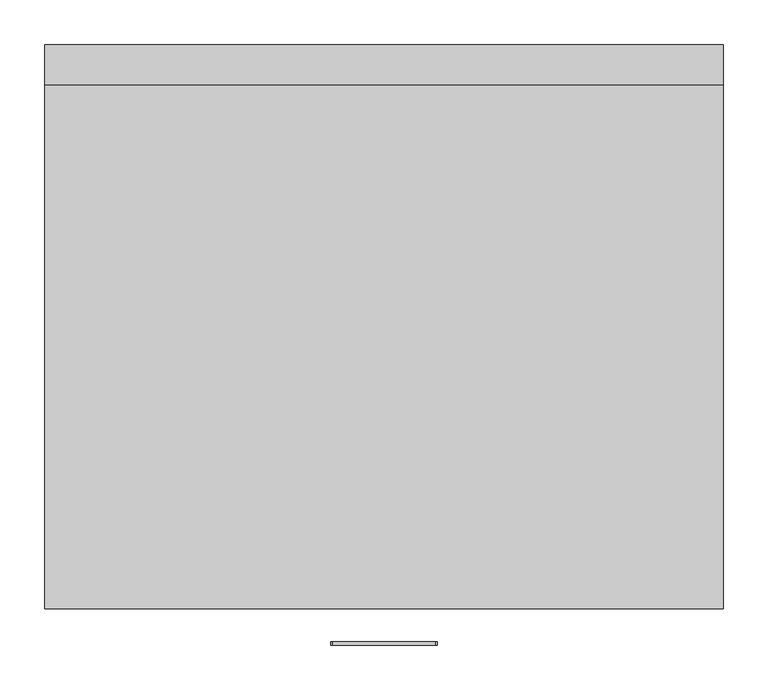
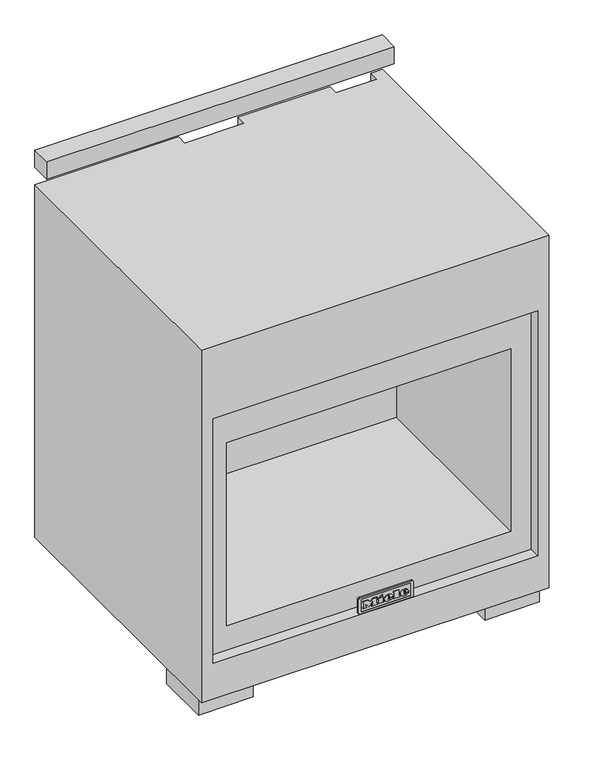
"""IFC4 building model written with IfcOpenShell, lengths in millimetres: proxy geometry, 10902360_USA_HR1924-2G_EDST-CLST : 25192471_USA_10902360_HR1924-2G_EDST-CLST."""

from ifc_helpers import new_model, si_unit, point, frame, frame_2d, origin, origin_with_axes, place, context, project, spatial, polyline, circle_curve, ellipse_curve, trimmed, segment, composite_curve, outline, extrude, faceted_brep, source, transform, mapped, element, save
from ifc_brep_helpers import plane_surface, cylinder_surface, revolved_surface, extruded_surface, advanced_brep


def specialty_equipment_ef82b3eb(model_context):
    return source(origin(), model_context, "Body", "SolidModel", [
        extrude(outline(composite_curve([segment(polyline([(-313.4581842, -37.6489066), (-312.202206, -37.8031213), (-313.1593436, -39.5606642)]), True, "CONTINUOUS"), segment(trimmed(circle_curve(frame_2d((-315.3057471, -36.6354063)), 3.6282478), [point((-313.1593436, -39.5606642))], [point((-316.8962663, -39.8964538))], False, "CARTESIAN"), True, "CONTINUOUS"), segment(trimmed(circle_curve(frame_2d((-315.7731504, -37.593725)), 2.5620205), [point((-316.8962663, -39.8964538))], [point((-318.32893, -37.7724425))], False, "CARTESIAN"), True, "CONTINUOUS"), segment(trimmed(circle_curve(frame_2d((-316.617737, -37.6527843)), 1.7153715), [point((-318.32893, -37.7724425))], [point((-317.147816, -36.021369))], False, "CARTESIAN"), True, "CONTINUOUS"), segment(polyline([(-317.147816, -36.021369), (-315.3069947, -35.4232499), (-313.987673, -33.9770867)]), True, "CONTINUOUS"), segment(trimmed(circle_curve(frame_2d((-315.1408399, -36.351197)), 2.6393548), [point((-313.987673, -33.9770867))], [point((-316.2940069, -33.9770867))], True, "CARTESIAN"), True, "CONTINUOUS"), segment(polyline([(-316.2940069, -33.9770867), (-316.7553884, -34.6611129), (-318.0084996, -34.5072502), (-317.5756304, -33.3795875)]), True, "CONTINUOUS"), segment(trimmed(circle_curve(frame_2d((-314.9527143, -36.6576461)), 4.1982564), [point((-317.5756304, -33.3795875))], [point((-315.0505395, -32.4605295))], False, "CARTESIAN"), True, "CONTINUOUS"), segment(trimmed(circle_curve(frame_2d((-314.9805679, -35.4626064)), 3.0028922), [point((-315.0505395, -32.4605295))], [point((-312.5718203, -33.6694816))], False, "CARTESIAN"), True, "CONTINUOUS"), segment(trimmed(circle_curve(frame_2d((-314.4380028, -34.5301363)), 2.0550823), [point((-312.5718203, -33.6694816))], [point((-313.4341096, -36.323335))], False, "CARTESIAN"), True, "CONTINUOUS"), segment(polyline([(-313.4341096, -36.323335), (-315.3494535, -36.9828408), (-317.0597255, -37.9076387), (-316.6768706, -38.6156702)]), True, "CONTINUOUS"), segment(trimmed(circle_curve(frame_2d((-315.3695779, -35.6018954)), 3.2850956), [point((-316.6768706, -38.6156702))], [point((-314.0622852, -38.6156702))], True, "CARTESIAN"), True, "CONTINUOUS"), segment(polyline([(-314.0622852, -38.6156702), (-313.4581842, -37.6489066)]), True, "CONTINUOUS")], self_intersect=False)), frame((0.0, 0.0, 753.0), z_axis=(0.0, 0.0, 1.0), x_axis=(1.0, 0.0, 0.0)), (0.0, 0.0, 1.0), 1.0),
        extrude(outline(composite_curve([segment(polyline([(-303.0941465, -34.8216074), (-299.0193946, -34.8216074), (-299.0193946, -36.0727848), (-301.8300756, -36.0727848), (-301.8300756, -37.8953779), (-300.5547934, -38.5734575), (-298.8554891, -38.8730907)]), True, "CONTINUOUS"), segment(trimmed(circle_curve(frame_2d((-298.7763582, -35.1835188)), 3.6904203), [point((-298.8554891, -38.8730907))], [point((-295.0917956, -34.975672))], True, "CARTESIAN"), True, "CONTINUOUS"), segment(trimmed(circle_curve(frame_2d((-299.2742118, -35.2116028)), 4.1890654), [point((-295.0917956, -34.975672))], [point((-298.8924604, -31.0399683))], True, "CARTESIAN"), True, "CONTINUOUS"), segment(trimmed(circle_curve(frame_2d((-299.1434541, -33.7827322)), 2.7542243), [point((-298.8924604, -31.0399683))], [point((-301.2311401, -31.9862582))], True, "CARTESIAN"), True, "CONTINUOUS"), segment(polyline([(-301.2311401, -31.9862582), (-301.7913432, -33.1348449), (-302.9545959, -32.808521), (-302.2222817, -31.1459412)]), True, "CONTINUOUS"), segment(trimmed(circle_curve(frame_2d((-299.0056573, -34.3038983)), 4.5077007), [point((-302.2222817, -31.1459412))], [point((-298.8478593, -29.7989604))], False, "CARTESIAN"), True, "CONTINUOUS"), segment(trimmed(circle_curve(frame_2d((-299.0297107, -35.0029797)), 5.2071956), [point((-298.8478593, -29.7989604))], [point((-293.8225151, -35.0029797))], False, "CARTESIAN"), True, "CONTINUOUS"), segment(trimmed(circle_curve(frame_2d((-299.0187023, -34.9634409)), 5.1963376), [point((-293.8225151, -35.0029797))], [point((-299.0187023, -40.1597785))], False, "CARTESIAN"), True, "CONTINUOUS"), segment(polyline([(-299.0187023, -40.1597785), (-301.0821579, -39.7823822), (-303.0941465, -38.5734575), (-303.0941465, -34.8216074)]), True, "CONTINUOUS")], self_intersect=False)), frame((0.0, 0.0, 753.0), z_axis=(0.0, 0.0, 1.0), x_axis=(1.0, 0.0, 0.0)), (0.0, 0.0, 1.0), 1.0),
        extrude(outline(polyline([(-335.0, -65.0), (-270.0, -65.0), (-270.0, -73.0), (-335.0, -73.0), (-335.0, -65.0)])), frame((0.0, 0.0, 670.0), z_axis=(0.0, 0.0, 1.0), x_axis=(1.0, 0.0, 0.0)), (0.0, 0.0, 1.0), 114.0),
        faceted_brep([(356.0, -608.0, 695.0), (-356.0, -608.0, 695.0), (-356.0, -608.0, 128.0), (356.0, -608.0, 128.0), (312.0, -608.0, 608.0), (312.0, -608.0, 185.0), (-312.0, -608.0, 185.0), (-312.0, -608.0, 608.0), (356.0, -633.0, 128.0), (356.0, -633.0, 695.0), (-356.0, -633.0, 128.0), (-356.0, -633.0, 695.0), (-381.0, 0.0, 862.0), (-381.0, -633.0, 862.0), (381.0, -633.0, 862.0), (381.0, 0.0, 862.0), (356.0, 0.0, 862.0), (356.0, -23.0, 862.0), (266.0, -23.0, 862.0), (266.0, 0.0, 862.0), (65.0, 0.0, 862.0), (65.0, -23.0, 862.0), (-66.0, -23.0, 862.0), (-66.0, 0.0, 862.0), (381.0, 0.0, 45.0), (381.0, -633.0, 45.0), (-381.0, -633.0, 45.0), (-381.0, 0.0, 45.0), (-356.0, 0.0, 45.0), (-356.0, -75.0, 45.0), (356.0, -75.0, 45.0), (356.0, 0.0, 45.0), (266.0, 0.0, 132.0), (65.0, 0.0, 132.0), (-66.0, 0.0, 132.0), (-270.0, 0.0, 132.0), (-270.0, 0.0, 670.0), (-186.0, 0.0, 670.0), (-186.0, 0.0, 784.0), (-335.0, 0.0, 784.0), (-335.0, 0.0, 132.0), (-356.0, 0.0, 132.0), (312.0, -173.0, 608.0), (-312.0, -173.0, 608.0), (-312.0, -173.0, 185.0), (312.0, -173.0, 185.0), (-356.0, -75.0, 132.0), (356.0, -75.0, 132.0), (-335.0, -73.0, 132.0), (-270.0, -73.0, 132.0), (-66.0, -23.0, 132.0), (65.0, -23.0, 132.0), (266.0, -23.0, 132.0), (356.0, -23.0, 132.0), (-335.0, -73.0, 784.0), (-270.0, -73.0, 784.0), (-186.0, -65.0, 784.0), (-270.0, -65.0, 784.0), (-270.0, -65.0, 670.0), (-186.0, -65.0, 670.0)], [[[0, 1, 2, 3], [4, 5, 6, 7]], [[0, 3, 8, 9]], [[3, 2, 10, 8]], [[2, 1, 11, 10]], [[1, 0, 9, 11]], [[12, 13, 14, 15, 16, 17, 18, 19, 20, 21, 22, 23]], [[24, 25, 26, 27, 28, 29, 30, 31]], [[20, 19, 32, 33]], [[15, 24, 31, 16]], [[27, 12, 23, 34, 35, 36, 37, 38, 39, 40, 41, 28]], [[13, 12, 27, 26]], [[14, 13, 26, 25], [9, 8, 10, 11]], [[15, 14, 25, 24]], [[42, 43, 44, 45]], [[42, 45, 5, 4]], [[45, 44, 6, 5]], [[44, 43, 7, 6]], [[43, 42, 4, 7]], [[46, 47, 30, 29]], [[47, 46, 41, 40, 48, 49, 35, 34, 50, 51, 33, 32, 52, 53]], [[30, 47, 53, 17, 16, 31]], [[41, 46, 29, 28]], [[54, 55, 49, 48]], [[55, 54, 39, 38, 56, 57]], [[49, 55, 57, 58, 36, 35]], [[39, 54, 48, 40]], [[17, 53, 52, 18]], [[21, 51, 50, 22]], [[51, 21, 20, 33]], [[22, 50, 34, 23]], [[18, 52, 32, 19]], [[57, 56, 59, 58]], [[59, 56, 38, 37]], [[58, 59, 37, 36]]]),
        extrude(outline(polyline([(225.4261097, -45.2846028), (218.1553153, -45.2846028), (218.1553153, -44.0259878), (224.1324687, -44.0259878), (224.1324687, -41.0398896), (218.4699511, -41.0398896), (218.4699511, -39.7868997), (224.1324687, -39.7868997), (224.1324687, -36.484481), (218.0234692, -36.484481), (218.0234692, -35.223126), (225.4261097, -35.223126), (225.4261097, -45.2846028)])), frame((0.0, 0.0, 101.0), z_axis=(0.0, 0.0, 1.0), x_axis=(1.0, 0.0, 0.0)), (0.0, 0.0, 1.0), 1.0),
        extrude(outline(polyline([(216.0939455, -45.2781045), (209.9083542, -45.2781045), (209.9083542, -44.0259878), (214.9083542, -44.0259878), (214.9083542, -35.223126), (216.0939455, -35.223126), (216.0939455, -45.2781045)])), frame((0.0, 0.0, 101.0), z_axis=(0.0, 0.0, 1.0), x_axis=(1.0, 0.0, 0.0)), (0.0, 0.0, 1.0), 1.0),
        extrude(outline(composite_curve([segment(trimmed(circle_curve(frame_2d((218.0, -41.0)), 7.5), [point((218.0, -48.5))], [point((218.0, -33.5))], False, "CARTESIAN"), True, "CONTINUOUS"), segment(trimmed(circle_curve(frame_2d((218.0, -41.0)), 7.5), [point((218.0, -33.5))], [point((218.0, -48.5))], False, "CARTESIAN"), True, "CONTINUOUS")], self_intersect=False)), frame((0.0, 0.0, 102.0), z_axis=(0.0, 0.0, 1.0), x_axis=(1.0, 0.0, 0.0)), (0.0, 0.0, 1.0), 30.0),
        extrude(outline(composite_curve([segment(trimmed(circle_curve(frame_2d((-306.0, -35.0)), 7.5), [point((-313.5, -35.0))], [point((-298.5, -35.0))], False, "CARTESIAN"), True, "CONTINUOUS"), segment(trimmed(circle_curve(frame_2d((-306.0, -35.0)), 7.5), [point((-298.5, -35.0))], [point((-313.5, -35.0))], False, "CARTESIAN"), True, "CONTINUOUS")], self_intersect=False)), frame((0.0, 0.0, 754.0), z_axis=(0.0, 0.0, 1.0), x_axis=(1.0, 0.0, 0.0)), (0.0, 0.0, 1.0), 30.0),
        extrude(outline(polyline([(747.9900117, -230.5376107), (758.0405487, -227.8032463), (758.0405487, -229.1010309), (749.3952189, -231.1941056), (758.0411296, -233.6946617), (758.0411296, -235.5615338), (749.4117226, -238.0845612), (758.0419182, -240.165026), (758.0419182, -241.4626989), (747.9984871, -238.7244126), (747.9984871, -237.3735976), (756.8308623, -234.6286268), (747.9900117, -232.0716905), (747.9900117, -230.5376107)])), frame((0.0, -35.0, 0.0), z_axis=(0.0, 1.0, 0.0), x_axis=(0.0, 0.0, 1.0)), (0.0, 0.0, 1.0), 1.0),
        extrude(outline(polyline([(748.0, -219.4829639), (758.0509015, -219.4829639), (758.0509015, -220.7409127), (753.1386151, -220.7409127), (758.0475587, -225.8904554), (758.0475587, -227.6455728), (753.9164775, -223.3179994), (748.0, -227.8019347), (748.0, -226.2701694), (753.0664133, -222.4304743), (751.4465471, -220.7392234), (748.0, -220.7392234), (748.0, -219.4829639)])), frame((0.0, -35.0, 0.0), z_axis=(0.0, 1.0, 0.0), x_axis=(0.0, 0.0, 1.0)), (0.0, 0.0, 1.0), 1.0),
        extrude(outline(composite_curve([segment(trimmed(circle_curve(frame_2d((753.0, -230.0)), 7.5), [point((753.0, -222.5))], [point((753.0, -237.5))], False, "CARTESIAN"), True, "CONTINUOUS"), segment(trimmed(circle_curve(frame_2d((753.0, -230.0)), 7.5), [point((753.0, -237.5))], [point((753.0, -222.5))], False, "CARTESIAN"), True, "CONTINUOUS")], self_intersect=False)), frame((0.0, -65.0, 0.0), z_axis=(0.0, 1.0, 0.0), x_axis=(0.0, 0.0, 1.0)), (0.0, 0.0, 1.0), 30.0),
        extrude(outline(composite_curve([segment(trimmed(circle_curve(frame_2d((-152.0, 39.6862697)), 39.6862697), [point((-112.6710759, 45.0))], [point((-191.3289241, 45.0))], False, "CARTESIAN"), True, "CONTINUOUS"), segment(polyline([(-191.3289241, 45.0), (-112.6710759, 45.0)]), True, "CONTINUOUS")], self_intersect=False)), frame((-234.0, 0.0, 0.0), z_axis=(1.0, 0.0, 0.0), x_axis=(0.0, 1.0, 0.0)), (0.0, 0.0, 1.0), 28.0),
        extrude(outline(polyline([(-254.0, -489.0), (-254.0, -609.0), (-374.0, -609.0), (-374.0, -489.0), (-254.0, -489.0)])), origin_with_axes(), (0.0, 0.0, 1.0), 45.0),
        extrude(outline(polyline([(374.0, -489.0), (374.0, -609.0), (254.0, -609.0), (254.0, -489.0), (374.0, -489.0)])), origin_with_axes(), (0.0, 0.0, 1.0), 45.0),
        advanced_brep(
        [(39.18, -674.0, 175.9105), (39.18, -674.0, 177.577), (50.2185, -674.0, 177.577), (31.0125, -674.0, 177.577), (35.55, -674.0, 172.0), (49.938, -674.0, 175.9105), (44.955, -674.0, 175.9105), (41.028, -674.0, 174.0625), (39.18, -674.0, 179.689), (39.18, -674.0, 181.4875), (42.0015, -674.0, 181.4875), (42.0015, -674.0, 179.689), (39.18, -673.0, 175.9105), (41.028, -673.0, 174.0625), (44.955, -673.0, 175.9105), (49.938, -673.0, 175.9105), (35.55, -673.0, 172.0), (31.0125, -673.0, 177.577), (50.2185, -673.0, 177.577), (39.18, -673.0, 177.577), (39.18, -673.0, 179.689), (42.0015, -673.0, 179.689), (42.0015, -673.0, 181.4875), (39.18, -673.0, 181.4875)],
        [
            (0, 1),
            (1, 2),
            (2, 3, ellipse_curve(frame((40.6155, -674.0, 177.577), z_axis=(0.0, -1.0, 0.0), x_axis=(-1.0, 0.0, 0.0)), 9.603, 7.9365)),
            (3, 4, circle_curve(frame((37.39809, -674.0, 178.138), z_axis=(0.0, -1.0, 0.0), x_axis=(0.0, 0.0, -1.0)), 6.4101857)),
            (4, 5, circle_curve(frame((40.4232618, -674.0, 182.494), z_axis=(0.0, -1.0, 0.0), x_axis=(0.0, 0.0, -1.0)), 11.5703378)),
            (5, 6),
            (6, 7, circle_curve(frame((41.8345588, -674.0, 177.445), z_axis=(0.0, 1.0, 0.0), x_axis=(0.0, 0.0, -1.0)), 3.4773328)),
            (7, 0, circle_curve(frame((41.028, -674.0, 175.9105), z_axis=(0.0, 1.0, 0.0), x_axis=(0.0, 0.0, -1.0)), 1.848)),
            (8, 9),
            (9, 10, circle_curve(frame((40.59075, -674.0, 181.4875), z_axis=(0.0, 1.0, 0.0), x_axis=(0.0, 0.0, -1.0)), 1.41075)),
            (10, 11),
            (11, 8),
            (12, 13, circle_curve(frame((41.028, -673.0, 175.9105), z_axis=(0.0, -1.0, 0.0), x_axis=(0.0, 0.0, -1.0)), 1.848)),
            (13, 14, circle_curve(frame((41.8345588, -673.0, 177.445), z_axis=(0.0, -1.0, 0.0), x_axis=(0.0, 0.0, -1.0)), 3.4773328)),
            (14, 15),
            (15, 16, circle_curve(frame((40.4232618, -673.0, 182.494), z_axis=(0.0, 1.0, 0.0), x_axis=(0.0, 0.0, -1.0)), 11.5703378)),
            (16, 17, circle_curve(frame((37.39809, -673.0, 178.138), z_axis=(0.0, 1.0, 0.0), x_axis=(0.0, 0.0, -1.0)), 6.4101857)),
            (17, 18, ellipse_curve(frame((40.6155, -673.0, 177.577), z_axis=(0.0, 1.0, 0.0), x_axis=(-1.0, 0.0, 0.0)), 9.603, 7.9365)),
            (18, 19),
            (19, 12),
            (20, 21),
            (21, 22),
            (22, 23, circle_curve(frame((40.59075, -673.0, 181.4875), z_axis=(0.0, -1.0, 0.0), x_axis=(0.0, 0.0, -1.0)), 1.41075)),
            (23, 20),
            (0, 12),
            (19, 1),
            (18, 2),
            (5, 15),
            (14, 6),
            (17, 3),
            (13, 7),
            (16, 4),
            (8, 20),
            (23, 9),
            (22, 10),
            (21, 11),
        ],
        [
            plane_surface(frame((39.18, -674.0, 177.577), z_axis=(0.0, -1.0, 0.0), x_axis=(0.0, 0.0, 1.0))),
            plane_surface(frame((39.18, -673.0, 177.577), z_axis=(0.0, 1.0, 0.0), x_axis=(0.0, 0.0, -1.0))),
            plane_surface(frame((39.18, -674.0, 175.9105), z_axis=(1.0, 0.0, 0.0), x_axis=(0.0, 1.0, 0.0))),
            plane_surface(frame((39.18, -674.0, 177.577), z_axis=(0.0, 0.0, -1.0), x_axis=(0.0, 1.0, 0.0))),
            plane_surface(frame((49.938, -674.0, 175.9105), z_axis=(0.0, 0.0, 1.0), x_axis=(0.0, 1.0, 0.0))),
            extruded_surface(trimmed(ellipse_curve(frame((40.6155, -672.0, 177.577), z_axis=(0.0, -1.0, 0.0), x_axis=(-1.0, 0.0, 0.0)), 9.603, 7.9365), [point((50.2185, -672.0, 177.577))], [point((31.0125, -672.0, 177.577))], True, "CARTESIAN"), (0.0, -1.0, 0.0), 1.0),
            revolved_surface(polyline([(41.8345588, -673.0, 173.9676672), (41.8345588, -674.0, 173.9676672)]), (41.8345588, -673.0, 177.445), (0.0, 1.0, 0.0)),
            revolved_surface(polyline([(41.028, -673.0, 174.0625), (41.028, -674.0, 174.0625)]), (41.028, -673.0, 175.9105), (0.0, 1.0, 0.0)),
            cylinder_surface(frame((37.39809, -673.0, 178.138), z_axis=(0.0, -1.0, 0.0), x_axis=(0.0, 0.0, -1.0)), 6.4101857),
            cylinder_surface(frame((40.4232618, -673.0, 182.494), z_axis=(0.0, -1.0, 0.0), x_axis=(0.0, 0.0, -1.0)), 11.5703378),
            plane_surface(frame((39.18, -674.0, 179.689), z_axis=(1.0, 0.0, 0.0), x_axis=(0.0, 1.0, 0.0))),
            revolved_surface(polyline([(40.59075, -673.0, 180.07675), (40.59075, -674.0, 180.07675)]), (40.59075, -673.0, 181.4875), (0.0, 1.0, 0.0)),
            plane_surface(frame((42.0015, -674.0, 181.4875), z_axis=(-1.0, 0.0, 0.0), x_axis=(0.0, 1.0, 0.0))),
            plane_surface(frame((42.0015, -674.0, 179.689), z_axis=(0.0, 0.0, 1.0), x_axis=(0.0, 1.0, 0.0))),
        ],
        [
            (0, [[1, 2, 3, 4, 5, 6, 7, 8], [9, 10, 11, 12]]),
            (1, [[13, 14, 15, 16, 17, 18, 19, 20], [21, 22, 23, 24]]),
            (2, [[-1, 25, -20, 26]]),
            (3, [[-2, -26, -19, 27]]),
            (4, [[-6, 28, -15, 29]]),
            (5, [[-3, -27, -18, 30]]),
            (6, [[-7, -29, -14, 31]]),
            (7, [[-8, -31, -13, -25]]),
            (8, [[-4, -30, -17, 32]]),
            (9, [[-5, -32, -16, -28]]),
            (10, [[-9, 33, -24, 34]]),
            (11, [[-10, -34, -23, 35]]),
            (12, [[-11, -35, -22, 36]]),
            (13, [[-12, -36, -21, -33]]),
        ],
    ),
        advanced_brep(
        [(4.7445, -674.0, 175.9105), (4.7445, -674.0, 177.577), (15.783, -674.0, 177.577), (-3.423, -674.0, 177.577), (1.1145, -674.0, 172.0), (15.5025, -674.0, 175.9105), (10.5195, -674.0, 175.9105), (6.5925, -674.0, 174.0625), (4.7445, -674.0, 179.689), (4.7445, -674.0, 181.4875), (7.566, -674.0, 181.4875), (7.566, -674.0, 179.689), (4.7445, -673.0, 175.9105), (6.5925, -673.0, 174.0625), (10.5195, -673.0, 175.9105), (15.5025, -673.0, 175.9105), (1.1145, -673.0, 172.0), (-3.423, -673.0, 177.577), (15.783, -673.0, 177.577), (4.7445, -673.0, 177.577), (4.7445, -673.0, 179.689), (7.566, -673.0, 179.689), (7.566, -673.0, 181.4875), (4.7445, -673.0, 181.4875)],
        [
            (0, 1),
            (1, 2),
            (2, 3, ellipse_curve(frame((6.18, -674.0, 177.577), z_axis=(0.0, -1.0, 0.0), x_axis=(-1.0, 0.0, 0.0)), 9.603, 7.9365)),
            (3, 4, circle_curve(frame((2.96259, -674.0, 178.138), z_axis=(0.0, -1.0, 0.0), x_axis=(0.0, 0.0, -1.0)), 6.4101857)),
            (4, 5, circle_curve(frame((5.9877618, -674.0, 182.494), z_axis=(0.0, -1.0, 0.0), x_axis=(0.0, 0.0, -1.0)), 11.5703378)),
            (5, 6),
            (6, 7, circle_curve(frame((7.3990588, -674.0, 177.445), z_axis=(0.0, 1.0, 0.0), x_axis=(0.0, 0.0, -1.0)), 3.4773328)),
            (7, 0, circle_curve(frame((6.5925, -674.0, 175.9105), z_axis=(0.0, 1.0, 0.0), x_axis=(0.0, 0.0, -1.0)), 1.848)),
            (8, 9),
            (9, 10, circle_curve(frame((6.15525, -674.0, 181.4875), z_axis=(0.0, 1.0, 0.0), x_axis=(0.0, 0.0, -1.0)), 1.41075)),
            (10, 11),
            (11, 8),
            (12, 13, circle_curve(frame((6.5925, -673.0, 175.9105), z_axis=(0.0, -1.0, 0.0), x_axis=(0.0, 0.0, -1.0)), 1.848)),
            (13, 14, circle_curve(frame((7.3990588, -673.0, 177.445), z_axis=(0.0, -1.0, 0.0), x_axis=(0.0, 0.0, -1.0)), 3.4773328)),
            (14, 15),
            (15, 16, circle_curve(frame((5.9877618, -673.0, 182.494), z_axis=(0.0, 1.0, 0.0), x_axis=(0.0, 0.0, -1.0)), 11.5703378)),
            (16, 17, circle_curve(frame((2.96259, -673.0, 178.138), z_axis=(0.0, 1.0, 0.0), x_axis=(0.0, 0.0, -1.0)), 6.4101857)),
            (17, 18, ellipse_curve(frame((6.18, -673.0, 177.577), z_axis=(0.0, 1.0, 0.0), x_axis=(-1.0, 0.0, 0.0)), 9.603, 7.9365)),
            (18, 19),
            (19, 12),
            (20, 21),
            (21, 22),
            (22, 23, circle_curve(frame((6.15525, -673.0, 181.4875), z_axis=(0.0, -1.0, 0.0), x_axis=(0.0, 0.0, -1.0)), 1.41075)),
            (23, 20),
            (0, 12),
            (19, 1),
            (18, 2),
            (5, 15),
            (14, 6),
            (17, 3),
            (13, 7),
            (16, 4),
            (8, 20),
            (23, 9),
            (22, 10),
            (21, 11),
        ],
        [
            plane_surface(frame((4.7445, -674.0, 177.577), z_axis=(0.0, -1.0, 0.0), x_axis=(0.0, 0.0, 1.0))),
            plane_surface(frame((4.7445, -673.0, 177.577), z_axis=(0.0, 1.0, 0.0), x_axis=(0.0, 0.0, -1.0))),
            plane_surface(frame((4.7445, -674.0, 175.9105), z_axis=(1.0, 0.0, 0.0), x_axis=(0.0, 1.0, 0.0))),
            plane_surface(frame((4.7445, -674.0, 177.577), z_axis=(0.0, 0.0, -1.0), x_axis=(0.0, 1.0, 0.0))),
            plane_surface(frame((15.5025, -674.0, 175.9105), z_axis=(0.0, 0.0, 1.0), x_axis=(0.0, 1.0, 0.0))),
            extruded_surface(trimmed(ellipse_curve(frame((6.18, -672.0, 177.577), z_axis=(0.0, -1.0, 0.0), x_axis=(-1.0, 0.0, 0.0)), 9.603, 7.9365), [point((15.783, -672.0, 177.577))], [point((-3.423, -672.0, 177.577))], True, "CARTESIAN"), (0.0, -1.0, 0.0), 1.0),
            revolved_surface(polyline([(7.3990588, -673.0, 173.9676672), (7.3990588, -674.0, 173.9676672)]), (7.3990588, -673.0, 177.445), (0.0, 1.0, 0.0)),
            revolved_surface(polyline([(6.5925, -673.0, 174.0625), (6.5925, -674.0, 174.0625)]), (6.5925, -673.0, 175.9105), (0.0, 1.0, 0.0)),
            cylinder_surface(frame((2.96259, -673.0, 178.138), z_axis=(0.0, -1.0, 0.0), x_axis=(0.0, 0.0, -1.0)), 6.4101857),
            cylinder_surface(frame((5.9877618, -673.0, 182.494), z_axis=(0.0, -1.0, 0.0), x_axis=(0.0, 0.0, -1.0)), 11.5703378),
            plane_surface(frame((4.7445, -674.0, 179.689), z_axis=(1.0, 0.0, 0.0), x_axis=(0.0, 1.0, 0.0))),
            revolved_surface(polyline([(6.15525, -673.0, 180.07675), (6.15525, -674.0, 180.07675)]), (6.15525, -673.0, 181.4875), (0.0, 1.0, 0.0)),
            plane_surface(frame((7.566, -674.0, 181.4875), z_axis=(-1.0, 0.0, 0.0), x_axis=(0.0, 1.0, 0.0))),
            plane_surface(frame((7.566, -674.0, 179.689), z_axis=(0.0, 0.0, 1.0), x_axis=(0.0, 1.0, 0.0))),
        ],
        [
            (0, [[1, 2, 3, 4, 5, 6, 7, 8], [9, 10, 11, 12]]),
            (1, [[13, 14, 15, 16, 17, 18, 19, 20], [21, 22, 23, 24]]),
            (2, [[-1, 25, -20, 26]]),
            (3, [[-2, -26, -19, 27]]),
            (4, [[-6, 28, -15, 29]]),
            (5, [[-3, -27, -18, 30]]),
            (6, [[-7, -29, -14, 31]]),
            (7, [[-8, -31, -13, -25]]),
            (8, [[-4, -30, -17, 32]]),
            (9, [[-5, -32, -16, -28]]),
            (10, [[-9, 33, -24, 34]]),
            (11, [[-10, -34, -23, 35]]),
            (12, [[-11, -35, -22, 36]]),
            (13, [[-12, -36, -21, -33]]),
        ],
    ),
        extrude(outline(polyline([(187.5265, -13.29), (184.8535, -12.036), (187.4605, -6.4425), (190.1335, -7.68), (187.5265, -13.29)])), frame((0.0, -674.0, 0.0), z_axis=(0.0, 1.0, 0.0), x_axis=(0.0, 0.0, 1.0)), (0.0, 0.0, 1.0), 1.0),
        extrude(outline(polyline([(184.4905, -17.3655), (181.537, -17.3655), (181.537, -15.402), (174.772, -15.402), (174.772, -17.3655), (172.0, -17.3655), (172.0, -4.347), (174.772, -4.347), (174.772, -6.261), (184.4905, -6.261), (184.4905, -17.3655)])), frame((0.0, -674.0, 0.0), z_axis=(0.0, 1.0, 0.0), x_axis=(0.0, 0.0, 1.0)), (0.0, 0.0, 1.0), 1.0),
        extrude(outline(polyline([(185.8105, 16.707), (185.8105, 18.687), (174.772, 18.687), (174.772, 16.707), (172.0, 16.707), (172.0, 30.0885), (174.772, 30.0885), (174.772, 28.059), (188.5, 28.059), (188.5, 16.707), (185.8105, 16.707)])), frame((0.0, -674.0, 0.0), z_axis=(0.0, 1.0, 0.0), x_axis=(0.0, 0.0, 1.0)), (0.0, 0.0, 1.0), 1.0),
        extrude(outline(polyline([(185.8105, -50.25), (185.8105, -48.2535), (174.772, -48.2535), (174.772, -50.25), (172.0, -50.25), (172.0, -42.99), (174.772, -42.99), (174.772, -44.97), (181.7366247, -44.97), (172.0, -37.5945), (182.1277223, -30.186), (174.772, -30.186), (174.772, -32.2155), (172.0, -32.2155), (172.0, -19.0485), (174.772, -19.0485), (174.772, -21.144), (185.8105, -21.144), (185.8105, -19.0485), (188.5, -19.0485), (188.5, -29.097), (182.3125, -33.915), (188.5, -38.7495), (188.5, -50.25), (185.8105, -50.25)])), frame((0.0, -674.0, 0.0), z_axis=(0.0, 1.0, 0.0), x_axis=(0.0, 0.0, 1.0)), (0.0, 0.0, 1.0), 1.0),
        advanced_brep(
        [(57.5, -674.0, 199.0), (-57.5, -674.0, 199.0), (-60.0, -674.0, 196.5), (-60.0, -674.0, 164.5), (-57.5, -674.0, 162.0), (57.5, -674.0, 162.0), (60.0, -674.0, 164.5), (60.0, -674.0, 196.5), (-52.5, -674.0, 195.0), (52.5, -674.0, 195.0), (54.0, -674.0, 193.5), (54.0, -674.0, 167.5), (52.5, -674.0, 166.0), (-52.5, -674.0, 166.0), (-54.0, -674.0, 167.5), (-54.0, -674.0, 193.5), (57.5, -670.0, 199.0), (60.0, -670.0, 196.5), (60.0, -670.0, 164.5), (57.5, -670.0, 162.0), (-57.5, -670.0, 162.0), (-60.0, -670.0, 164.5), (-60.0, -670.0, 196.5), (-57.5, -670.0, 199.0), (52.5, -673.0, 195.0), (-52.5, -673.0, 195.0), (-54.0, -673.0, 193.5), (-54.0, -673.0, 167.5), (-52.5, -673.0, 166.0), (52.5, -673.0, 166.0), (54.0, -673.0, 167.5), (54.0, -673.0, 193.5)],
        [
            (0, 1),
            (1, 2, circle_curve(frame((-57.5, -674.0, 196.5), z_axis=(0.0, -1.0, 0.0), x_axis=(-1.0, 0.0, 0.0)), 2.5)),
            (2, 3),
            (3, 4, circle_curve(frame((-57.5, -674.0, 164.5), z_axis=(0.0, -1.0, 0.0), x_axis=(-1.0, 0.0, 0.0)), 2.5)),
            (4, 5),
            (5, 6, circle_curve(frame((57.5, -674.0, 164.5), z_axis=(0.0, -1.0, 0.0), x_axis=(-1.0, 0.0, 0.0)), 2.5)),
            (6, 7),
            (7, 0, circle_curve(frame((57.5, -674.0, 196.5), z_axis=(0.0, -1.0, 0.0), x_axis=(-1.0, 0.0, 0.0)), 2.5)),
            (8, 9),
            (9, 10, circle_curve(frame((52.5, -674.0, 193.5), z_axis=(0.0, 1.0, 0.0), x_axis=(1.0, 0.0, 0.0)), 1.5)),
            (10, 11),
            (11, 12, circle_curve(frame((52.5, -674.0, 167.5), z_axis=(0.0, 1.0, 0.0), x_axis=(1.0, 0.0, 0.0)), 1.5)),
            (12, 13),
            (13, 14, circle_curve(frame((-52.5, -674.0, 167.5), z_axis=(0.0, 1.0, 0.0), x_axis=(1.0, 0.0, 0.0)), 1.5)),
            (14, 15),
            (15, 8, circle_curve(frame((-52.5, -674.0, 193.5), z_axis=(0.0, 1.0, 0.0), x_axis=(1.0, 0.0, 0.0)), 1.5)),
            (16, 17, circle_curve(frame((57.5, -670.0, 196.5), z_axis=(0.0, 1.0, 0.0), x_axis=(-1.0, 0.0, 0.0)), 2.5)),
            (17, 18),
            (18, 19, circle_curve(frame((57.5, -670.0, 164.5), z_axis=(0.0, 1.0, 0.0), x_axis=(-1.0, 0.0, 0.0)), 2.5)),
            (19, 20),
            (20, 21, circle_curve(frame((-57.5, -670.0, 164.5), z_axis=(0.0, 1.0, 0.0), x_axis=(-1.0, 0.0, 0.0)), 2.5)),
            (21, 22),
            (22, 23, circle_curve(frame((-57.5, -670.0, 196.5), z_axis=(0.0, 1.0, 0.0), x_axis=(-1.0, 0.0, 0.0)), 2.5)),
            (23, 16),
            (0, 16),
            (23, 1),
            (22, 2),
            (21, 3),
            (20, 4),
            (19, 5),
            (18, 6),
            (17, 7),
            (24, 25),
            (25, 26, circle_curve(frame((-52.5, -673.0, 193.5), z_axis=(0.0, -1.0, 0.0), x_axis=(1.0, 0.0, 0.0)), 1.5)),
            (26, 27),
            (27, 28, circle_curve(frame((-52.5, -673.0, 167.5), z_axis=(0.0, -1.0, 0.0), x_axis=(1.0, 0.0, 0.0)), 1.5)),
            (28, 29),
            (29, 30, circle_curve(frame((52.5, -673.0, 167.5), z_axis=(0.0, -1.0, 0.0), x_axis=(1.0, 0.0, 0.0)), 1.5)),
            (30, 31),
            (31, 24, circle_curve(frame((52.5, -673.0, 193.5), z_axis=(0.0, -1.0, 0.0), x_axis=(1.0, 0.0, 0.0)), 1.5)),
            (24, 9),
            (8, 25),
            (15, 26),
            (14, 27),
            (13, 28),
            (12, 29),
            (11, 30),
            (10, 31),
        ],
        [
            plane_surface(frame((55.0, -674.0, 196.5), z_axis=(0.0, -1.0, 0.0), x_axis=(0.0, 0.0, -1.0))),
            plane_surface(frame((55.0, -670.0, 196.5), z_axis=(0.0, 1.0, 0.0), x_axis=(0.0, 0.0, 1.0))),
            plane_surface(frame((-57.5, -670.0, 199.0), z_axis=(0.0, 0.0, 1.0), x_axis=(0.0, -1.0, 0.0))),
            cylinder_surface(frame((-57.5, -674.0, 196.5), z_axis=(0.0, 1.0, 0.0), x_axis=(-1.0, 0.0, 0.0)), 2.5),
            plane_surface(frame((-60.0, -670.0, 164.5), z_axis=(-1.0, 0.0, 0.0), x_axis=(0.0, -1.0, 0.0))),
            cylinder_surface(frame((-57.5, -674.0, 164.5), z_axis=(0.0, 1.0, 0.0), x_axis=(-1.0, 0.0, 0.0)), 2.5),
            plane_surface(frame((57.5, -670.0, 162.0), z_axis=(0.0, 0.0, -1.0), x_axis=(0.0, -1.0, 0.0))),
            cylinder_surface(frame((57.5, -674.0, 164.5), z_axis=(0.0, 1.0, 0.0), x_axis=(-1.0, 0.0, 0.0)), 2.5),
            plane_surface(frame((60.0, -670.0, 196.5), z_axis=(1.0, 0.0, 0.0), x_axis=(0.0, -1.0, 0.0))),
            cylinder_surface(frame((57.5, -674.0, 196.5), z_axis=(0.0, 1.0, 0.0), x_axis=(-1.0, 0.0, 0.0)), 2.5),
            plane_surface(frame((-52.5, -673.0, 195.0), z_axis=(0.0, -1.0, 0.0), x_axis=(1.0, 0.0, 0.0))),
            plane_surface(frame((52.5, -674.0, 195.0), z_axis=(0.0, 0.0, -1.0), x_axis=(0.0, 1.0, 0.0))),
            revolved_surface(polyline([(-51.0, -674.0, 193.5), (-51.0, -673.0, 193.5)]), (-52.5, -673.0, 193.5), (0.0, -1.0, 0.0)),
            plane_surface(frame((-54.0, -674.0, 193.5), z_axis=(1.0, 0.0, 0.0), x_axis=(0.0, 1.0, 0.0))),
            revolved_surface(polyline([(-51.0, -674.0, 167.5), (-51.0, -673.0, 167.5)]), (-52.5, -673.0, 167.5), (0.0, -1.0, 0.0)),
            plane_surface(frame((-52.5, -674.0, 166.0), z_axis=(0.0, 0.0, 1.0), x_axis=(0.0, 1.0, 0.0))),
            revolved_surface(polyline([(54.0, -674.0, 167.5), (54.0, -673.0, 167.5)]), (52.5, -673.0, 167.5), (0.0, -1.0, 0.0)),
            plane_surface(frame((54.0, -674.0, 167.5), z_axis=(-1.0, 0.0, 0.0), x_axis=(0.0, 1.0, 0.0))),
            revolved_surface(polyline([(54.0, -674.0, 193.5), (54.0, -673.0, 193.5)]), (52.5, -673.0, 193.5), (0.0, -1.0, 0.0)),
        ],
        [
            (0, [[1, 2, 3, 4, 5, 6, 7, 8], [9, 10, 11, 12, 13, 14, 15, 16]]),
            (1, [[17, 18, 19, 20, 21, 22, 23, 24]]),
            (2, [[-1, 25, -24, 26]]),
            (3, [[-2, -26, -23, 27]]),
            (4, [[-3, -27, -22, 28]]),
            (5, [[-4, -28, -21, 29]]),
            (6, [[-5, -29, -20, 30]]),
            (7, [[-6, -30, -19, 31]]),
            (8, [[-7, -31, -18, 32]]),
            (9, [[-8, -32, -17, -25]]),
            (10, [[33, 34, 35, 36, 37, 38, 39, 40]]),
            (11, [[-33, 41, -9, 42]]),
            (12, [[-34, -42, -16, 43]]),
            (13, [[-35, -43, -15, 44]]),
            (14, [[-36, -44, -14, 45]]),
            (15, [[-37, -45, -13, 46]]),
            (16, [[-38, -46, -12, 47]]),
            (17, [[-39, -47, -11, 48]]),
            (18, [[-40, -48, -10, -41]]),
        ],
    ),
        extrude(outline(polyline([(381.0, 0.0), (381.0, -45.0), (-381.0, -45.0), (-381.0, 0.0), (381.0, 0.0)])), frame((0.0, 0.0, 902.0), z_axis=(0.0, 0.0, 1.0), x_axis=(1.0, 0.0, 0.0)), (0.0, 0.0, 1.0), 40.0),
    ])


if __name__ == "__main__":
    model = new_model("IFC4")
    model_context = context("Model", 3, world=origin())
    ifc_project = project(units=[si_unit("LENGTHUNIT", "METRE", prefix="MILLI")], contexts=[model_context])
    site = spatial("IfcSite", under=ifc_project)
    building = spatial("IfcBuilding", under=site)
    placement = place(None, origin())
    specialty_equipment_shape = specialty_equipment_ef82b3eb(model_context)
    element("IfcBuildingElementProxy", 1, Name="10902360_USA_HR1924-2G_EDST-CLST : 25192471_USA_10902360_HR1924-2G_EDST-CLST", ObjectType="10902360_USA_HR1924-2G_EDST-CLST : 25192471_USA_10902360_HR1924-2G_EDST-CLST", at=placement, inside=building, context=model_context, shape_type="MappedRepresentation", body=[
        mapped(specialty_equipment_shape, transform((0.0, 0.0, 0.0), x_axis=(1.0, 0.0, 0.0), y_axis=(0.0, 1.0, 0.0), z_axis=(0.0, 0.0, 1.0))),
    ])
    save(model, "model.ifc")
